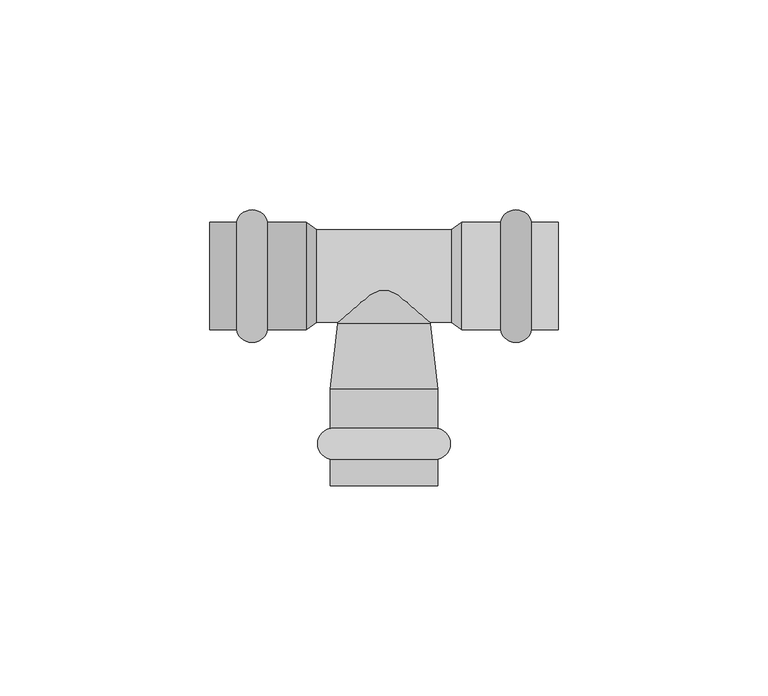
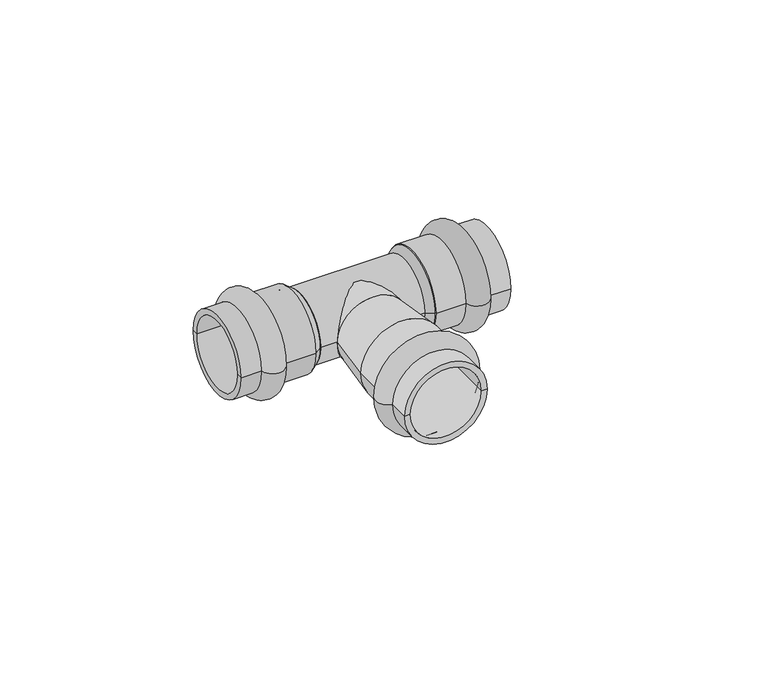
"""IFC4 building model written with IfcOpenShell, lengths in millimetres: pipe fitting geometry, VALTEC_VTi.931.I_Тройник_Ннержавеющая сталь : VTi.931.I."""

from ifc_helpers import new_model, si_unit, point, frame, origin, origin_2d, place, context, project, spatial, polyline, circle_curve, ellipse_curve, trimmed, segment, composite_curve, outline, extrude, source, transform, mapped, element, save
from ifc_brep_helpers import plane_surface, cylinder_surface, revolved_surface, advanced_brep


def pipe_fitting_b145cf54(model_context):
    return source(origin(), model_context, "Body", "SolidModel", [
        advanced_brep(
        [(12.8, -43.6242346, 0.0), (-12.8, -43.6242346, 0.0), (-12.8, -36.2757654, 0.0), (12.8, -36.2757654, 0.0), (12.8, -50.0, 0.0), (-12.8, -50.0, 0.0), (11.0, -50.0, 0.0), (-11.0, -50.0, 0.0), (11.0, -27.0, 0.0), (-11.0, -27.0, 0.0), (12.8, -27.0, 0.0), (-12.8, -27.0, 0.0)],
        [
            (0, 1, circle_curve(frame((0.0, -43.6242346, 0.0), z_axis=(0.0, 1.0, 0.0), x_axis=(-1.0, 0.0, 0.0)), 12.8)),
            (1, 2, circle_curve(frame((-12.05, -39.95, 0.0), z_axis=(0.0, 0.0, -1.0), x_axis=(0.0, 1.0, 0.0)), 3.75)),
            (2, 3, circle_curve(frame((0.0, -36.2757654, 0.0), z_axis=(0.0, -1.0, 0.0), x_axis=(-1.0, 0.0, 0.0)), 12.8)),
            (3, 0, circle_curve(frame((12.05, -39.95, 0.0), z_axis=(0.0, 0.0, -1.0), x_axis=(0.0, 1.0, 0.0)), 3.75)),
            (1, 0, circle_curve(frame((0.0, -43.6242346, 0.0), z_axis=(0.0, 1.0, 0.0), x_axis=(-1.0, 0.0, 0.0)), 12.8)),
            (3, 2, circle_curve(frame((0.0, -36.2757654, 0.0), z_axis=(0.0, -1.0, 0.0), x_axis=(-1.0, 0.0, 0.0)), 12.8)),
            (4, 5, circle_curve(frame((0.0, -50.0, 0.0), z_axis=(0.0, 1.0, 0.0), x_axis=(-1.0, 0.0, 0.0)), 12.8)),
            (5, 1),
            (0, 4),
            (5, 4, circle_curve(frame((0.0, -50.0, 0.0), z_axis=(0.0, 1.0, 0.0), x_axis=(-1.0, 0.0, 0.0)), 12.8)),
            (6, 7, circle_curve(frame((0.0, -50.0, 0.0), z_axis=(0.0, 1.0, 0.0), x_axis=(-1.0, 0.0, 0.0)), 11.0)),
            (7, 5),
            (4, 6),
            (7, 6, circle_curve(frame((0.0, -50.0, 0.0), z_axis=(0.0, 1.0, 0.0), x_axis=(-1.0, 0.0, 0.0)), 11.0)),
            (8, 9, circle_curve(frame((0.0, -27.0, 0.0), z_axis=(0.0, 1.0, 0.0), x_axis=(-1.0, 0.0, 0.0)), 11.0)),
            (9, 7),
            (6, 8),
            (9, 8, circle_curve(frame((0.0, -27.0, 0.0), z_axis=(0.0, 1.0, 0.0), x_axis=(-1.0, 0.0, 0.0)), 11.0)),
            (10, 11, circle_curve(frame((0.0, -27.0, 0.0), z_axis=(0.0, 1.0, 0.0), x_axis=(-1.0, 0.0, 0.0)), 12.8)),
            (11, 9),
            (8, 10),
            (11, 10, circle_curve(frame((0.0, -27.0, 0.0), z_axis=(0.0, 1.0, 0.0), x_axis=(-1.0, 0.0, 0.0)), 12.8)),
            (2, 11),
            (10, 3),
        ],
        [
            revolved_surface(trimmed(ellipse_curve(frame((-12.05, -39.95, 0.0), z_axis=(0.0, 0.0, 1.0), x_axis=(0.0, 1.0, 0.0)), 3.75, 3.75), [point((-12.8, -36.2757654, 0.0))], [point((-12.8, -43.6242346, 0.0))], True, "CARTESIAN"), (0.0, -53.5364426, 0.0), (0.0, -1.0, 0.0)),
            cylinder_surface(frame((0.0, -53.5364426, 0.0), z_axis=(0.0, -1.0, 0.0), x_axis=(-1.0, 0.0, 0.0)), 12.8),
            plane_surface(frame((0.0, -50.0, 0.0), z_axis=(0.0, -1.0, 0.0), x_axis=(-1.0, 0.0, 0.0))),
            revolved_surface(polyline([(-11.0, -50.0, 0.0), (-11.0, -27.0, 0.0)]), (0.0, -53.5364426, 0.0), (0.0, -1.0, 0.0)),
            plane_surface(frame((0.0, -27.0, 0.0), z_axis=(0.0, 1.0, 0.0), x_axis=(-1.0, 0.0, 0.0))),
        ],
        [
            (0, [[1, 2, 3, 4]]),
            (0, [[5, -4, 6, -2]]),
            (1, [[7, 8, -1, 9]]),
            (1, [[10, -9, -5, -8]]),
            (2, [[11, 12, -7, 13]]),
            (2, [[14, -13, -10, -12]]),
            (3, [[15, 16, -11, 17]]),
            (3, [[18, -17, -14, -16]]),
            (4, [[19, 20, -15, 21]]),
            (4, [[22, -21, -18, -20]]),
            (1, [[-3, 23, -19, 24]]),
            (1, [[-6, -24, -22, -23]]),
        ],
    ),
        advanced_brep(
        [(35.1242346, 12.8, 0.0), (35.1242346, -12.8, 0.0), (27.7757654, -12.8, 0.0), (27.7757654, 12.8, 0.0), (41.5, 12.8, 0.0), (41.5, -12.8, 0.0), (41.5, 11.0, 0.0), (41.5, -11.0, 0.0), (18.5, 11.0, 0.0), (18.5, -11.0, 0.0), (18.5, 12.8, 0.0), (18.5, -12.8, 0.0)],
        [
            (0, 1, circle_curve(frame((35.1242346, 0.0, 0.0), z_axis=(-1.0, 0.0, 0.0), x_axis=(0.0, -1.0, 0.0)), 12.8)),
            (1, 2, circle_curve(frame((31.45, -12.05, 0.0), z_axis=(0.0, 0.0, -1.0), x_axis=(-1.0, 0.0, 0.0)), 3.75)),
            (2, 3, circle_curve(frame((27.7757654, 0.0, 0.0), z_axis=(1.0, 0.0, 0.0), x_axis=(0.0, -1.0, 0.0)), 12.8)),
            (3, 0, circle_curve(frame((31.45, 12.05, 0.0), z_axis=(0.0, 0.0, -1.0), x_axis=(-1.0, 0.0, 0.0)), 3.75)),
            (1, 0, circle_curve(frame((35.1242346, 0.0, 0.0), z_axis=(-1.0, 0.0, 0.0), x_axis=(0.0, -1.0, 0.0)), 12.8)),
            (3, 2, circle_curve(frame((27.7757654, 0.0, 0.0), z_axis=(1.0, 0.0, 0.0), x_axis=(0.0, -1.0, 0.0)), 12.8)),
            (4, 5, circle_curve(frame((41.5, 0.0, 0.0), z_axis=(-1.0, 0.0, 0.0), x_axis=(0.0, -1.0, 0.0)), 12.8)),
            (5, 1),
            (0, 4),
            (5, 4, circle_curve(frame((41.5, 0.0, 0.0), z_axis=(-1.0, 0.0, 0.0), x_axis=(0.0, -1.0, 0.0)), 12.8)),
            (6, 7, circle_curve(frame((41.5, 0.0, 0.0), z_axis=(-1.0, 0.0, 0.0), x_axis=(0.0, -1.0, 0.0)), 11.0)),
            (7, 5),
            (4, 6),
            (7, 6, circle_curve(frame((41.5, 0.0, 0.0), z_axis=(-1.0, 0.0, 0.0), x_axis=(0.0, -1.0, 0.0)), 11.0)),
            (8, 9, circle_curve(frame((18.5, 0.0, 0.0), z_axis=(-1.0, 0.0, 0.0), x_axis=(0.0, -1.0, 0.0)), 11.0)),
            (9, 7),
            (6, 8),
            (9, 8, circle_curve(frame((18.5, 0.0, 0.0), z_axis=(-1.0, 0.0, 0.0), x_axis=(0.0, -1.0, 0.0)), 11.0)),
            (10, 11, circle_curve(frame((18.5, 0.0, 0.0), z_axis=(-1.0, 0.0, 0.0), x_axis=(0.0, -1.0, 0.0)), 12.8)),
            (11, 9),
            (8, 10),
            (11, 10, circle_curve(frame((18.5, 0.0, 0.0), z_axis=(-1.0, 0.0, 0.0), x_axis=(0.0, -1.0, 0.0)), 12.8)),
            (2, 11),
            (10, 3),
        ],
        [
            revolved_surface(trimmed(ellipse_curve(frame((31.45, -12.05, 0.0), z_axis=(0.0, 0.0, 1.0), x_axis=(-1.0, 0.0, 0.0)), 3.75, 3.75), [point((27.7757654, -12.8, 0.0))], [point((35.1242346, -12.8, 0.0))], True, "CARTESIAN"), (45.0364426, 0.0, 0.0), (1.0, 0.0, 0.0)),
            cylinder_surface(frame((45.0364426, 0.0, 0.0), z_axis=(1.0, 0.0, 0.0), x_axis=(0.0, -1.0, 0.0)), 12.8),
            plane_surface(frame((41.5, 0.0, 0.0), z_axis=(1.0, 0.0, 0.0), x_axis=(0.0, -1.0, 0.0))),
            revolved_surface(polyline([(41.5, -11.0, 0.0), (18.5, -11.0, 0.0)]), (45.0364426, 0.0, 0.0), (1.0, 0.0, 0.0)),
            plane_surface(frame((18.5, 0.0, 0.0), z_axis=(-1.0, 0.0, 0.0), x_axis=(0.0, -1.0, 0.0))),
        ],
        [
            (0, [[1, 2, 3, 4]]),
            (0, [[5, -4, 6, -2]]),
            (1, [[7, 8, -1, 9]]),
            (1, [[10, -9, -5, -8]]),
            (2, [[11, 12, -7, 13]]),
            (2, [[14, -13, -10, -12]]),
            (3, [[15, 16, -11, 17]]),
            (3, [[18, -17, -14, -16]]),
            (4, [[19, 20, -15, 21]]),
            (4, [[22, -21, -18, -20]]),
            (1, [[-3, 23, -19, 24]]),
            (1, [[-6, -24, -22, -23]]),
        ],
    ),
        advanced_brep(
        [(-35.1242346, -12.8, 0.0), (-35.1242346, 12.8, 0.0), (-27.7757654, 12.8, 0.0), (-27.7757654, -12.8, 0.0), (-41.5, -12.8, 0.0), (-41.5, 12.8, 0.0), (-41.5, -11.0, 0.0), (-41.5, 11.0, 0.0), (-18.5, -11.0, 0.0), (-18.5, 11.0, 0.0), (-18.5, -12.8, 0.0), (-18.5, 12.8, 0.0)],
        [
            (0, 1, circle_curve(frame((-35.1242346, 0.0, 0.0), z_axis=(1.0, 0.0, 0.0), x_axis=(0.0, 1.0, 0.0)), 12.8)),
            (1, 2, circle_curve(frame((-31.45, 12.05, 0.0), z_axis=(0.0, 0.0, -1.0), x_axis=(1.0, 0.0, 0.0)), 3.75)),
            (2, 3, circle_curve(frame((-27.7757654, 0.0, 0.0), z_axis=(-1.0, 0.0, 0.0), x_axis=(0.0, 1.0, 0.0)), 12.8)),
            (3, 0, circle_curve(frame((-31.45, -12.05, 0.0), z_axis=(0.0, 0.0, -1.0), x_axis=(1.0, 0.0, 0.0)), 3.75)),
            (1, 0, circle_curve(frame((-35.1242346, 0.0, 0.0), z_axis=(1.0, 0.0, 0.0), x_axis=(0.0, 1.0, 0.0)), 12.8)),
            (3, 2, circle_curve(frame((-27.7757654, 0.0, 0.0), z_axis=(-1.0, 0.0, 0.0), x_axis=(0.0, 1.0, 0.0)), 12.8)),
            (4, 5, circle_curve(frame((-41.5, 0.0, 0.0), z_axis=(1.0, 0.0, 0.0), x_axis=(0.0, 1.0, 0.0)), 12.8)),
            (5, 1),
            (0, 4),
            (5, 4, circle_curve(frame((-41.5, 0.0, 0.0), z_axis=(1.0, 0.0, 0.0), x_axis=(0.0, 1.0, 0.0)), 12.8)),
            (6, 7, circle_curve(frame((-41.5, 0.0, 0.0), z_axis=(1.0, 0.0, 0.0), x_axis=(0.0, 1.0, 0.0)), 11.0)),
            (7, 5),
            (4, 6),
            (7, 6, circle_curve(frame((-41.5, 0.0, 0.0), z_axis=(1.0, 0.0, 0.0), x_axis=(0.0, 1.0, 0.0)), 11.0)),
            (8, 9, circle_curve(frame((-18.5, 0.0, 0.0), z_axis=(1.0, 0.0, 0.0), x_axis=(0.0, 1.0, 0.0)), 11.0)),
            (9, 7),
            (6, 8),
            (9, 8, circle_curve(frame((-18.5, 0.0, 0.0), z_axis=(1.0, 0.0, 0.0), x_axis=(0.0, 1.0, 0.0)), 11.0)),
            (10, 11, circle_curve(frame((-18.5, 0.0, 0.0), z_axis=(1.0, 0.0, 0.0), x_axis=(0.0, 1.0, 0.0)), 12.8)),
            (11, 9),
            (8, 10),
            (11, 10, circle_curve(frame((-18.5, 0.0, 0.0), z_axis=(1.0, 0.0, 0.0), x_axis=(0.0, 1.0, 0.0)), 12.8)),
            (2, 11),
            (10, 3),
        ],
        [
            revolved_surface(trimmed(ellipse_curve(frame((-31.45, 12.05, 0.0), z_axis=(0.0, 0.0, 1.0), x_axis=(1.0, 0.0, 0.0)), 3.75, 3.75), [point((-27.7757654, 12.8, 0.0))], [point((-35.1242346, 12.8, 0.0))], True, "CARTESIAN"), (-45.0364426, 0.0, 0.0), (-1.0, 0.0, 0.0)),
            cylinder_surface(frame((-45.0364426, 0.0, 0.0), z_axis=(-1.0, 0.0, 0.0), x_axis=(0.0, 1.0, 0.0)), 12.8),
            plane_surface(frame((-41.5, 0.0, 0.0), z_axis=(-1.0, 0.0, 0.0), x_axis=(0.0, 1.0, 0.0))),
            revolved_surface(polyline([(-41.5, 11.0, 0.0), (-18.5, 11.0, 0.0)]), (-45.0364426, 0.0, 0.0), (-1.0, 0.0, 0.0)),
            plane_surface(frame((-18.5, 0.0, 0.0), z_axis=(1.0, 0.0, 0.0), x_axis=(0.0, 1.0, 0.0))),
        ],
        [
            (0, [[1, 2, 3, 4]]),
            (0, [[5, -4, 6, -2]]),
            (1, [[7, 8, -1, 9]]),
            (1, [[10, -9, -5, -8]]),
            (2, [[11, 12, -7, 13]]),
            (2, [[14, -13, -10, -12]]),
            (3, [[15, 16, -11, 17]]),
            (3, [[18, -17, -14, -16]]),
            (4, [[19, 20, -15, 21]]),
            (4, [[22, -21, -18, -20]]),
            (1, [[-3, 23, -19, 24]]),
            (1, [[-6, -24, -22, -23]]),
        ],
    ),
        extrude(outline(composite_curve([segment(trimmed(circle_curve(origin_2d(), 11.0), [point((-11.0, 0.0))], [point((11.0, 0.0))], False, "CARTESIAN"), True, "CONTINUOUS"), segment(trimmed(circle_curve(origin_2d(), 11.0), [point((11.0, 0.0))], [point((-11.0, 0.0))], False, "CARTESIAN"), True, "CONTINUOUS")], self_intersect=False)), frame((-16.0, 0.0, 0.0), z_axis=(1.0, 0.0, 0.0), x_axis=(0.0, 1.0, 0.0)), (0.0, 0.0, 1.0), 32.0),
        advanced_brep(
        [(-12.8, -27.0, 0.0), (12.8, -27.0, 0.0), (-11.0, -11.3209826, 0.0), (11.0, -11.3209826, 0.0)],
        [
            (0, 1, circle_curve(frame((0.0, -27.0, 0.0), z_axis=(0.0, -1.0, 0.0), x_axis=(-1.0, 0.0, 0.0)), 12.8)),
            (1, 0, circle_curve(frame((0.0, -27.0, 0.0), z_axis=(0.0, -1.0, 0.0), x_axis=(1.0, 0.0, 0.0)), 12.8)),
            (2, 3, circle_curve(frame((0.0, -11.3209826, 0.0), z_axis=(0.0, 1.0, 0.0), x_axis=(1.0, 0.0, 0.0)), 11.0)),
            (3, 2, circle_curve(frame((0.0, -11.3209826, 0.0), z_axis=(0.0, 1.0, 0.0), x_axis=(-1.0, 0.0, 0.0)), 11.0)),
            (3, 1),
            (0, 2),
        ],
        [
            plane_surface(frame((0.0, -27.0, 0.0), z_axis=(0.0, -1.0, 0.0), x_axis=(0.0, 0.0, 1.0))),
            plane_surface(frame((0.0, -11.3209826, 0.0), z_axis=(0.0, 1.0, 0.0), x_axis=(0.0, 0.0, 1.0))),
            revolved_surface(polyline([(11.000000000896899, -11.320982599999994, 0.0), (12.8, -27.0, 0.0)]), (0.0, 84.4952349, 0.0), (0.0, -1.0, 0.0)),
            revolved_surface(polyline([(-11.000000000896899, -11.320982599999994, 0.0), (-12.8, -27.0, 0.0)]), (0.0, 84.4952349, 0.0), (0.0, -1.0, 0.0)),
        ],
        [
            (0, [[1, 2]]),
            (1, [[3, 4]]),
            (2, [[-4, 5, -1, 6]]),
            (3, [[-3, -6, -2, -5]]),
        ],
    ),
        extrude(outline(composite_curve([segment(trimmed(circle_curve(origin_2d(), 11.0), [point((0.0, -11.0))], [point((0.0, 11.0))], False, "CARTESIAN"), True, "CONTINUOUS"), segment(trimmed(circle_curve(origin_2d(), 11.0), [point((0.0, 11.0))], [point((0.0, -11.0))], False, "CARTESIAN"), True, "CONTINUOUS")], self_intersect=False)), frame((0.0, -11.3209826, 0.0), z_axis=(0.0, 1.0, 0.0), x_axis=(0.0, 0.0, 1.0)), (0.0, 0.0, 1.0), 11.3209826),
        advanced_brep(
        [(18.5, -12.8, 0.0), (18.5, 12.8, 0.0), (16.0, -11.0, 0.0), (16.0, 11.0, 0.0)],
        [
            (0, 1, circle_curve(frame((18.5, 0.0, 0.0), z_axis=(1.0, 0.0, 0.0), x_axis=(0.0, -1.0, 0.0)), 12.8)),
            (1, 0, circle_curve(frame((18.5, 0.0, 0.0), z_axis=(1.0, 0.0, 0.0), x_axis=(0.0, 1.0, 0.0)), 12.8)),
            (2, 3, circle_curve(frame((16.0, 0.0, 0.0), z_axis=(-1.0, 0.0, 0.0), x_axis=(0.0, 1.0, 0.0)), 11.0)),
            (3, 2, circle_curve(frame((16.0, 0.0, 0.0), z_axis=(-1.0, 0.0, 0.0), x_axis=(0.0, -1.0, 0.0)), 11.0)),
            (3, 1),
            (0, 2),
        ],
        [
            plane_surface(frame((18.5, 0.0, 0.0), z_axis=(1.0, 0.0, 0.0), x_axis=(0.0, 0.0, 1.0))),
            plane_surface(frame((16.0, 0.0, 0.0), z_axis=(-1.0, 0.0, 0.0), x_axis=(0.0, 0.0, 1.0))),
            revolved_surface(polyline([(16.0, 11.000000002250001, 0.0), (18.5, 12.8, 0.0)]), (0.7222222, 0.0, 0.0), (1.0, 0.0, 0.0)),
            revolved_surface(polyline([(16.0, -11.000000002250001, 0.0), (18.5, -12.8, 0.0)]), (0.7222222, 0.0, 0.0), (1.0, 0.0, 0.0)),
        ],
        [
            (0, [[1, 2]]),
            (1, [[3, 4]]),
            (2, [[-4, 5, -1, 6]]),
            (3, [[-3, -6, -2, -5]]),
        ],
    ),
        advanced_brep(
        [(-18.5, -12.8, 0.0), (-18.5, 12.8, 0.0), (-16.0, -11.0, 0.0), (-16.0, 11.0, 0.0)],
        [
            (0, 1, circle_curve(frame((-18.5, 0.0, 0.0), z_axis=(-1.0, 0.0, 0.0), x_axis=(0.0, -1.0, 0.0)), 12.8)),
            (1, 0, circle_curve(frame((-18.5, 0.0, 0.0), z_axis=(-1.0, 0.0, 0.0), x_axis=(0.0, 1.0, 0.0)), 12.8)),
            (2, 3, circle_curve(frame((-16.0, 0.0, 0.0), z_axis=(1.0, 0.0, 0.0), x_axis=(0.0, 1.0, 0.0)), 11.0)),
            (3, 2, circle_curve(frame((-16.0, 0.0, 0.0), z_axis=(1.0, 0.0, 0.0), x_axis=(0.0, -1.0, 0.0)), 11.0)),
            (2, 0),
            (1, 3),
        ],
        [
            plane_surface(frame((-18.5, 0.0, 0.0), z_axis=(-1.0, 0.0, 0.0), x_axis=(0.0, 0.0, -1.0))),
            plane_surface(frame((-16.0, 0.0, 0.0), z_axis=(1.0, 0.0, 0.0), x_axis=(0.0, 0.0, -1.0))),
            revolved_surface(polyline([(-16.0, -11.000000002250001, 0.0), (-18.5, -12.8, 0.0)]), (-0.7222222, 0.0, 0.0), (-1.0, 0.0, 0.0)),
            revolved_surface(polyline([(-16.0, 11.000000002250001, 0.0), (-18.5, 12.8, 0.0)]), (-0.7222222, 0.0, 0.0), (-1.0, 0.0, 0.0)),
        ],
        [
            (0, [[1, 2]]),
            (1, [[3, 4]]),
            (2, [[-3, 5, -2, 6]]),
            (3, [[-4, -6, -1, -5]]),
        ],
    ),
    ])


if __name__ == "__main__":
    model = new_model("IFC4")
    model_context = context("Model", 3, world=origin())
    ifc_project = project(units=[si_unit("LENGTHUNIT", "METRE", prefix="MILLI")], contexts=[model_context])
    site = spatial("IfcSite", under=ifc_project)
    building = spatial("IfcBuilding", under=site)
    placement = place(None, origin())
    pipe_fitting_shape = pipe_fitting_b145cf54(model_context)
    element("IfcPipeFitting", 1, ObjectType="VALTEC_VTi.931.I_Тройник_Ннержавеющая сталь : VTi.931.I", at=placement, inside=building, context=model_context, shape_type="MappedRepresentation", body=[
        mapped(pipe_fitting_shape, transform((0.0, 0.0, 0.0), x_axis=(1.0, 0.0, 0.0), y_axis=(0.0, 1.0, 0.0), z_axis=(0.0, 0.0, 1.0))),
    ])
    save(model, "model.ifc")
